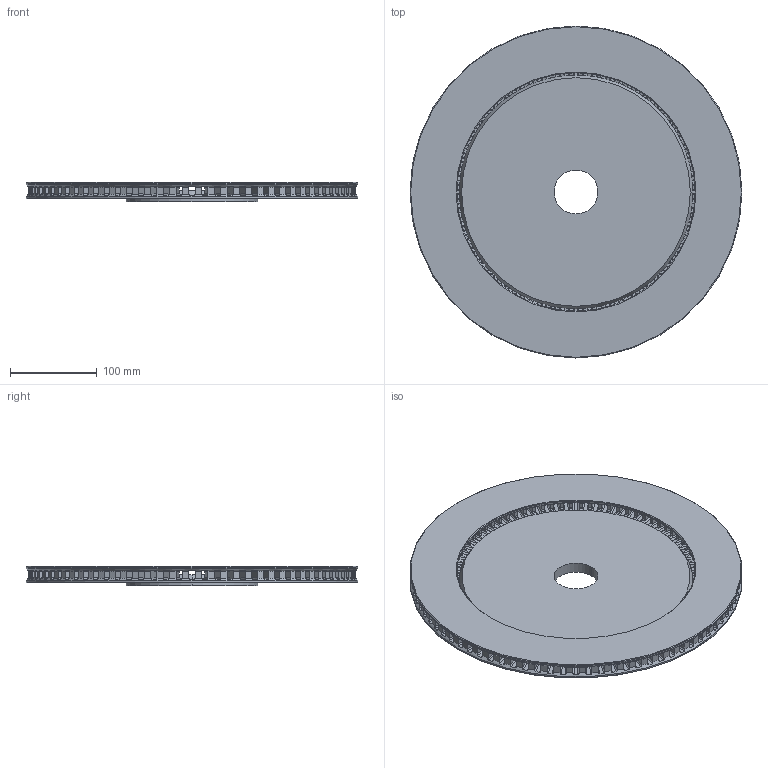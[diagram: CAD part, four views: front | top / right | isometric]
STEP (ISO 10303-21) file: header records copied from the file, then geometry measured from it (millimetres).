
FILE_DESCRIPTION (( 'STEP AP214' ), '1' );
FILE_NAME ('0.75-2-15.STEP', '2018-04-11T17:18:08', ( '' ), ( '' ), 'SwSTEP 2.0', 'SolidWorks 2017', '' );
FILE_SCHEMA (( 'AUTOMOTIVE_DESIGN' ));
Length unit declared in the file: inch
Products named in the file (1): 0.75-2-15
Bounding box: 383.54 x 383.54 x 22.23 mm (x, y, z)
Volume: 1289461.8 mm3; surface area: 389830.7 mm2
Topology: 1 solids, 1 shells, 990 faces, 3424 edges, 2278 vertices
Faces by surface type: cylinder 490, plane 324, cone 96, torus 80
Entity records: 46426 total; most frequent: CARTESIAN_POINT 18981, ORIENTED_EDGE 6848, DIRECTION 4644, EDGE_CURVE 3424, VERTEX_POINT 2278, AXIS2_PLACEMENT_3D 1829, B_SPLINE_CURVE_WITH_KNOTS 1600, EDGE_LOOP 994
